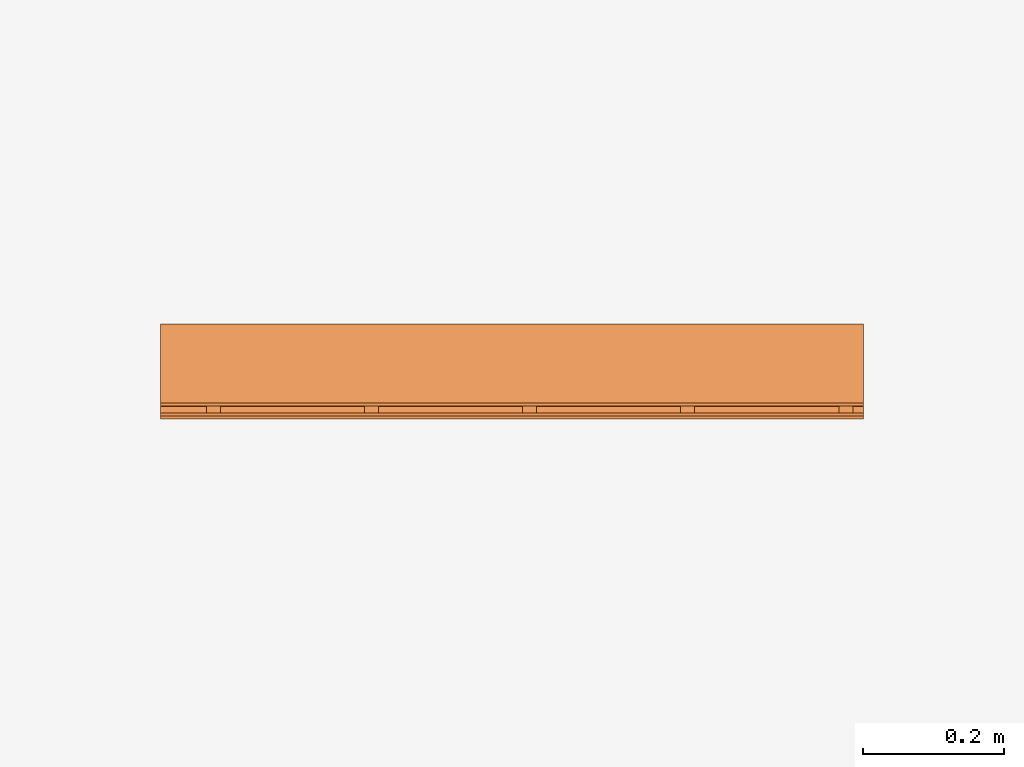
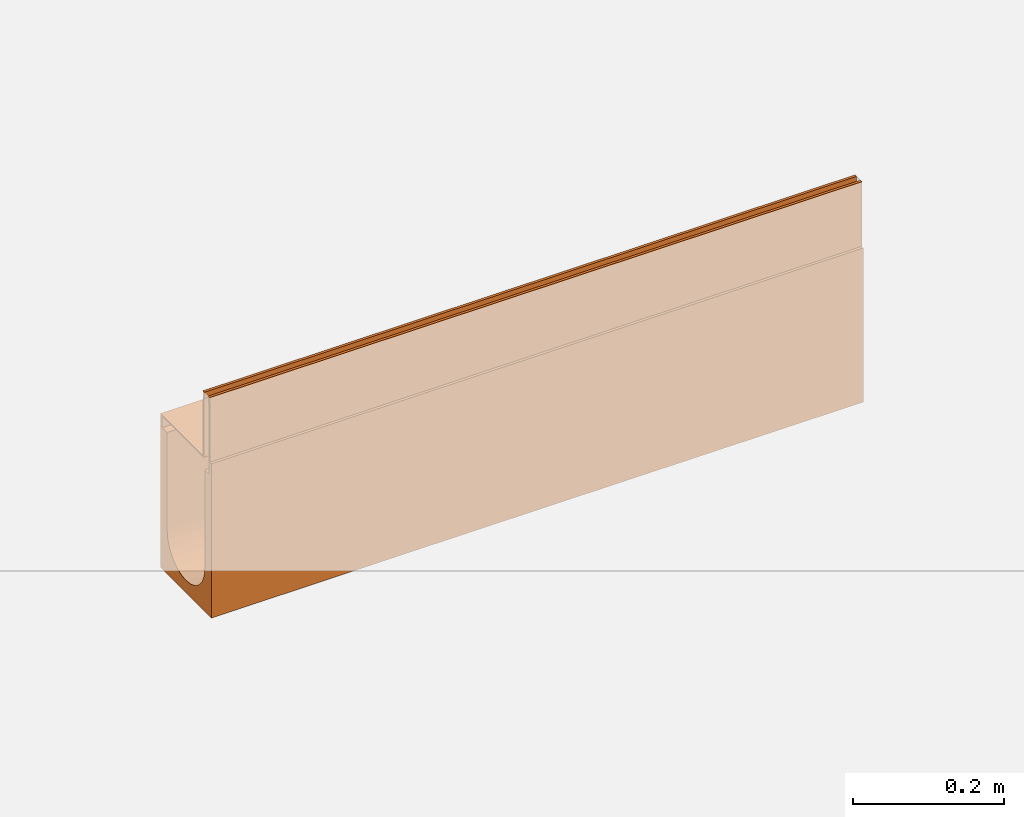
# One storey, part 2 of 2: 1 proxy.
"""IFC2X3 building model written with IfcOpenShell, lengths in millimetres."""

from ifc_helpers import new_model, entity, si_unit, converted_unit, direction, frame, origin, place, context, subcontext, project, spatial, faceted_brep, source, transform, mapped, material, material_list, element, save


model = new_model("IFC2X3")

# Units and contexts
model_context = context("Model", 3, precision=1e-06, world=origin(), true_north=direction((2.0, 6.12303176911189e-17, 1.0)))
context_of_model = context(None, 3, precision=1e-06, world=origin(), true_north=direction((2.0, 6.12303176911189e-17, 1.0)))
body_context = subcontext(model_context, "Body", "Model", "MODEL_VIEW")
ifc_project = project(units=[si_unit("LENGTHUNIT", "METRE", prefix="MILLI"), si_unit("AREAUNIT", "SQUARE_METRE", prefix="MILLI"), si_unit("VOLUMEUNIT", "CUBIC_METRE", prefix="MILLI"), converted_unit("PLANEANGLEUNIT", "DEGREE", entity("IfcRatioMeasure", 0.0174532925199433), si_unit("PLANEANGLEUNIT", "RADIAN"), dimensions=[0, 0, 0, 0, 0, 0, 0]), si_unit("TIMEUNIT", "SECOND")], contexts=[model_context, context_of_model])

# Site, building, storey
site_placement = place(None, origin())
site = spatial("IfcSite", under=ifc_project, at=site_placement, Name="Default", CompositionType="ELEMENT")
building_placement = place(site_placement, origin())
building = spatial("IfcBuilding", under=site, at=building_placement, CompositionType="ELEMENT")
storey_placement = place(building_placement, origin())
storey = spatial("IfcBuildingStorey", under=building, at=storey_placement, Name="Level 1", CompositionType="ELEMENT", Elevation=0.0)

# Proxy
ifc_material_1 = material(Name="Steel, Galvanized")
ifc_material_2 = material(Name="Vienite® Synthetic Resin Concrete")
ifc_material_list = material_list([ifc_material_1, ifc_material_2])
shared_shape = source(origin(), body_context, "Body", "Brep", [
    faceted_brep([(63.249999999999, 15.0, -107.0), (63.249999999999, 17.0, -109.0), (63.249999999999, 33.0, -109.0), (63.249999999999, 35.0, -107.0), (63.249999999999, 17.0, -123.499999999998), (63.249999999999, 15.0, -125.499999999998), (63.249999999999, 33.0, -123.499999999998), (63.249999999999, 35.0, -125.499999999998), (-61.250000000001, 15.0, -125.499999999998), (-61.250000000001, 17.0, -123.499999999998), (-61.250000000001, 33.0, -123.499999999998), (-61.250000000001, 35.0, -125.499999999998), (-61.250000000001, 17.0, -109.0), (-61.250000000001, 15.0, -107.0), (-61.250000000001, 33.0, -109.0), (-61.250000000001, 35.0, -107.0)], [[[0, 1, 2, 3]], [[4, 1, 0, 5]], [[3, 2, 6, 7]], [[6, 4, 5, 7]], [[8, 9, 10, 11]], [[12, 9, 8, 13]], [[11, 10, 14, 15]], [[14, 12, 13, 15]], [[5, 0, 13, 8]], [[7, 5, 8, 11]], [[3, 7, 11, 15]], [[0, 3, 15, 13]], [[1, 4, 9, 12]], [[14, 2, 1, 12]], [[6, 2, 14, 10]], [[9, 4, 6, 10]]]),
    faceted_brep([(-47.2500000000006, 0.0, -10.0), (-47.2500000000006, 0.0, -107.0), (-45.2500000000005, 0.0, -105.0), (-45.2500000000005, 0.0, 0.0), (-49.2500000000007, 0.0, 0.0), (-49.2500000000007, 0.0, -10.0), (63.2499999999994, 0.0, -107.0), (63.2499999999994, 0.0, -105.0), (-45.2500000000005, 1000.0, -105.0), (63.2499999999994, 1000.0, -105.0), (63.2499999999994, 1000.0, -107.0), (-47.2500000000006, 1000.0, -107.0), (-47.2500000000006, 1000.0, -10.0), (-45.2500000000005, 1000.0, 0.0), (-49.2500000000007, 1000.0, -10.0), (-49.2500000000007, 1000.0, 0.0)], [[[0, 1, 2, 3]], [[4, 5, 0, 3]], [[6, 7, 2, 1]], [[8, 9, 10, 11]], [[12, 13, 8, 11]], [[12, 14, 15, 13]], [[0, 5, 14, 12]], [[11, 1, 0, 12]], [[6, 1, 11, 10]], [[9, 7, 6, 10]], [[8, 2, 7, 9]], [[3, 2, 8, 13]], [[15, 4, 3, 13]], [[5, 4, 15, 14]]]),
    faceted_brep([(-59.2500000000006, 1000.0, 0.0), (-59.2500000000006, 1000.0, -10.0), (-61.2500000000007, 1000.0, -10.0), (-63.2500000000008, 1000.0, 0.0), (-63.2500000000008, 1000.0, -125.499999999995), (-61.2500000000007, 1000.0, -125.499999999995), (-61.2500000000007, 0.0, -10.0), (-63.2500000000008, 0.0, 0.0), (-63.2500000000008, 0.0, -125.499999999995), (-61.2500000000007, 0.0, -125.499999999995), (-59.2500000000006, 0.0, 0.0), (-59.2500000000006, 0.0, -10.0)], [[[0, 1, 2, 3]], [[4, 3, 2, 5]], [[6, 7, 8, 9]], [[10, 7, 6, 11]], [[9, 8, 4, 5]], [[6, 9, 5, 2]], [[11, 6, 2, 1]], [[10, 11, 1, 0]], [[3, 7, 10, 0]], [[4, 8, 7, 3]]]),
    faceted_brep([(63.2499999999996, 465.0, -107.0), (63.2499999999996, 467.0, -109.0), (63.2499999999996, 483.0, -109.0), (63.2499999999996, 485.0, -107.0), (63.2499999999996, 467.0, -123.499999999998), (63.2499999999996, 465.0, -125.499999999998), (63.2499999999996, 483.0, -123.499999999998), (63.2499999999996, 485.0, -125.499999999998), (-61.2500000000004, 465.0, -125.499999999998), (-61.2500000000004, 467.0, -123.499999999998), (-61.2500000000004, 483.0, -123.499999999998), (-61.2500000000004, 485.0, -125.499999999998), (-61.2500000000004, 467.0, -109.0), (-61.2500000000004, 465.0, -107.0), (-61.2500000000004, 483.0, -109.0), (-61.2500000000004, 485.0, -107.0)], [[[0, 1, 2, 3]], [[4, 1, 0, 5]], [[3, 2, 6, 7]], [[6, 4, 5, 7]], [[8, 9, 10, 11]], [[12, 9, 8, 13]], [[11, 10, 14, 15]], [[14, 12, 13, 15]], [[5, 0, 13, 8]], [[7, 5, 8, 11]], [[3, 7, 11, 15]], [[0, 3, 15, 13]], [[1, 4, 9, 12]], [[2, 1, 12, 14]], [[6, 2, 14, 10]], [[4, 6, 10, 9]]]),
    faceted_brep([(63.2499999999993, 240.0, -107.0), (63.2499999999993, 242.0, -109.0), (63.2499999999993, 258.0, -109.0), (63.2499999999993, 260.0, -107.0), (63.2499999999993, 242.0, -123.499999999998), (63.2499999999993, 240.0, -125.499999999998), (63.2499999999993, 258.0, -123.499999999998), (63.2499999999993, 260.0, -125.499999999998), (-61.2500000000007, 240.0, -125.499999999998), (-61.2500000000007, 242.0, -123.499999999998), (-61.2500000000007, 258.0, -123.499999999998), (-61.2500000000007, 260.0, -125.499999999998), (-61.2500000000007, 242.0, -109.0), (-61.2500000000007, 240.0, -107.0), (-61.2500000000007, 258.0, -109.0), (-61.2500000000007, 260.0, -107.0)], [[[0, 1, 2, 3]], [[4, 1, 0, 5]], [[3, 2, 6, 7]], [[6, 4, 5, 7]], [[8, 9, 10, 11]], [[12, 9, 8, 13]], [[11, 10, 14, 15]], [[14, 12, 13, 15]], [[5, 0, 13, 8]], [[7, 5, 8, 11]], [[3, 7, 11, 15]], [[0, 3, 15, 13]], [[1, 4, 9, 12]], [[2, 1, 12, 14]], [[6, 2, 14, 10]], [[4, 6, 10, 9]]]),
    faceted_brep([(63.2500000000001, 915.0, -107.0), (63.2500000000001, 917.0, -109.0), (63.2500000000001, 933.0, -109.0), (63.2500000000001, 935.0, -107.0), (63.2500000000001, 917.0, -123.499999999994), (63.2500000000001, 915.0, -125.499999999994), (63.2500000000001, 933.0, -123.499999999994), (63.2500000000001, 935.0, -125.499999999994), (-61.2499999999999, 915.0, -125.499999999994), (-61.2499999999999, 917.0, -123.499999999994), (-61.2499999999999, 933.0, -123.499999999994), (-61.2499999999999, 935.0, -125.499999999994), (-61.2499999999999, 917.0, -109.0), (-61.2499999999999, 915.0, -107.0), (-61.2499999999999, 933.0, -109.0), (-61.2499999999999, 935.0, -107.0)], [[[0, 1, 2, 3]], [[4, 1, 0, 5]], [[3, 2, 6, 7]], [[6, 4, 5, 7]], [[8, 9, 10, 11]], [[12, 9, 8, 13]], [[11, 10, 14, 15]], [[14, 12, 13, 15]], [[5, 0, 13, 8]], [[11, 7, 5, 8]], [[3, 7, 11, 15]], [[13, 0, 3, 15]], [[1, 4, 9, 12]], [[2, 1, 12, 14]], [[6, 2, 14, 10]], [[4, 6, 10, 9]]]),
    faceted_brep([(63.2499999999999, 690.0, -107.0), (63.2499999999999, 692.0, -109.0), (63.2499999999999, 708.0, -109.0), (63.2499999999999, 710.0, -107.0), (63.2499999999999, 692.0, -123.499999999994), (63.2499999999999, 690.0, -125.499999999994), (63.2499999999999, 708.0, -123.499999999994), (63.2499999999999, 710.0, -125.499999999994), (-61.2500000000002, 690.0, -125.499999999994), (-61.2500000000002, 692.0, -123.499999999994), (-61.2500000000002, 708.0, -123.499999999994), (-61.2500000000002, 710.0, -125.499999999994), (-61.2500000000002, 692.0, -109.0), (-61.2500000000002, 690.0, -107.0), (-61.2500000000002, 708.0, -109.0), (-61.2500000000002, 710.0, -107.0)], [[[0, 1, 2, 3]], [[4, 1, 0, 5]], [[3, 2, 6, 7]], [[6, 4, 5, 7]], [[8, 9, 10, 11]], [[12, 9, 8, 13]], [[11, 10, 14, 15]], [[14, 12, 13, 15]], [[5, 0, 13, 8]], [[11, 7, 5, 8]], [[3, 7, 11, 15]], [[13, 0, 3, 15]], [[1, 4, 9, 12]], [[2, 1, 12, 14]], [[6, 2, 14, 10]], [[4, 6, 10, 9]]]),
    faceted_brep([(63.2499999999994, 1000.0, -125.500000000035), (63.2499999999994, 1000.0, -105.0), (67.5000000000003, 1000.0, -105.0), (67.5000000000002, 1000.0, -355.0), (50.0, 1000.0, -285.0), (50.0, 1000.0, -125.500000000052), (-67.4999999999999, 1000.0, -105.0), (-63.2499999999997, 1000.0, -105.0), (-63.2500000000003, 1000.0, -125.500000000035), (-67.4999999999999, 1000.0, -355.0), (-50.0, 1000.0, -125.500000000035), (-50.0, 1000.0, -285.0), (48.2962913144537, 1000.0, -297.940952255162), (35.3553390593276, 1000.0, -320.355339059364), (43.3012701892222, 1000.0, -310.0), (25.0, 1000.0, -328.301270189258), (0.0, 1000.0, -335.0), (12.9409522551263, 1000.0, -333.29629131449), (-43.3012701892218, 1000.0, -310.0), (-35.3553390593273, 1000.0, -320.355339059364), (-48.2962913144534, 1000.0, -297.940952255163), (-25.0, 1000.0, -328.301270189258), (-12.9409522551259, 1000.0, -333.29629131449), (67.5000000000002, 0.0, -355.0), (12.9409522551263, 0.0, -333.29629131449), (0.0, 0.0, -335.0), (25.0, 0.0, -328.301270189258), (35.3553390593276, 0.0, -320.355339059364), (43.3012701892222, 0.0, -310.0), (48.2962913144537, 0.0, -297.940952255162), (-12.9409522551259, 0.0, -333.29629131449), (-67.4999999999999, 0.0, -355.0), (-25.0, 0.0, -328.301270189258), (-35.3553390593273, 0.0, -320.355339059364), (-43.3012701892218, 0.0, -310.0), (-48.2962913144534, 0.0, -297.940952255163), (50.0, 0.0, -285.0), (63.2499999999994, 0.0, -125.500000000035), (50.0, 0.0, -125.500000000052), (67.5000000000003, 0.0, -105.0), (63.2499999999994, 0.0, -105.0), (-50.0, 0.0, -285.0), (-50.0, 0.0, -125.500000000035), (-63.2500000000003, 0.0, -125.500000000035), (-63.2499999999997, 0.0, -105.0), (-67.4999999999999, 0.0, -105.0), (-14.2350474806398, 46.8740795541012, -355.0), (0.0, 45.0, -355.0), (-27.5000000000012, 52.3686027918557, -355.0), (-53.1259204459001, 85.764952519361, -355.0), (-47.6313972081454, 72.4999999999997, -355.0), (-38.8908729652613, 61.1091270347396, -355.0), (-55.0, 100.0, -355.0), (14.2350474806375, 46.8740795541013, -355.0), (27.4999999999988, 52.368602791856, -355.0), (38.8908729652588, 61.1091270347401, -355.0), (47.6313972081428, 72.5000000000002, -355.0), (53.1259204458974, 85.7649525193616, -355.0), (55.0, 100.0, -355.0), (-53.1259204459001, 114.235047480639, -355.0), (-47.6313972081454, 127.5, -355.0), (-38.8908729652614, 138.89087296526, -355.0), (-27.5000000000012, 147.631397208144, -355.0), (-14.2350474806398, 153.125920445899, -355.0), (0.0, 155.0, -355.0), (47.6313972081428, 127.5, -355.0), (38.8908729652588, 138.89087296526, -355.0), (53.1259204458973, 114.235047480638, -355.0), (14.2350474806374, 153.125920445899, -355.0), (27.4999999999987, 147.631397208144, -355.0), (50.0, 500.0, -285.0), (39.6676669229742, 358.503173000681, -315.438071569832), (46.1939765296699, 499.999994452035, -304.134171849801), (49.0392639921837, 322.335444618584, -294.754516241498), (30.4380713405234, 499.999998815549, -324.667667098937), (19.1341715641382, 292.558308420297, -331.193976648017), (6.52630960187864, 500.0, -334.572243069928), (19.1341716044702, 641.496826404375, -331.193976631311), (49.0392639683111, 640.187466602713, -294.754516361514), (-19.1341716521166, 500.0, -331.193976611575), (39.667666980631, 707.441691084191, -315.438071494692), (-46.1939766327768, 500.0, -304.134171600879), (-49.0392640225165, 677.66454995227, -294.754516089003), (-30.4380714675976, 358.503175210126, -324.66766700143), (-6.52630964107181, 292.558307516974, -334.572243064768), (-6.52630961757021, 641.49682443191, -334.572243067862), (-39.6676670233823, 292.558307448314, -315.438071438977), (-39.6676670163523, 641.496824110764, -315.438071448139), (-30.4380714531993, 707.441692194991, -324.667667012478), (-49.0392640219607, 359.81252578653, -294.754516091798), (-50.0, 499.997658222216, -285.0), (-27.5000000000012, 147.631397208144, -345.0), (-14.2350474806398, 153.125920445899, -345.0), (0.0, 155.0, -345.0), (14.2350474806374, 153.125920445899, -345.0), (-38.8908729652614, 138.89087296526, -345.0), (-47.6313972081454, 127.5, -345.0), (-55.0, 100.0, -345.0), (-53.1259204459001, 114.235047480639, -345.0), (47.6313972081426, 72.4999999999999, -345.0), (27.4999999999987, 147.631397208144, -345.0), (53.1259204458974, 114.235047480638, -345.0), (55.0, 100.0, -345.0), (47.6313972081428, 127.5, -345.0), (38.8908729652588, 138.89087296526, -345.0), (-47.6313972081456, 72.5, -345.0), (-27.5000000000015, 52.3686027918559, -345.0), (-38.8908729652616, 61.1091270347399, -345.0), (0.0, 45.0, -345.0), (-14.2350474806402, 46.8740795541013, -345.0), (38.8908729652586, 61.1091270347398, -345.0), (53.1259204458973, 85.7649525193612, -345.0), (27.4999999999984, 52.3686027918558, -345.0), (14.2350474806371, 46.8740795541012, -345.0), (-53.1259204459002, 85.7649525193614, -345.0)], [[[0, 1, 2, 3]], [[4, 5, 0, 3]], [[6, 7, 8, 9]], [[8, 10, 11, 9]], [[4, 3, 12]], [[13, 14, 3]], [[15, 13, 3]], [[16, 17, 3, 9]], [[3, 17, 15]], [[14, 12, 3]], [[18, 19, 9]], [[20, 18, 9]], [[21, 22, 9]], [[9, 22, 16]], [[21, 9, 19]], [[20, 9, 11]], [[23, 24, 25]], [[24, 23, 26]], [[27, 26, 23]], [[28, 27, 23]], [[23, 29, 28]], [[25, 30, 31, 23]], [[31, 30, 32]], [[33, 34, 31]], [[32, 33, 31]], [[31, 34, 35]], [[36, 29, 23]], [[37, 38, 36, 23]], [[39, 40, 37, 23]], [[41, 42, 43, 31]], [[35, 41, 31]], [[43, 44, 45, 31]], [[7, 44, 43, 8]], [[6, 45, 44, 7]], [[31, 45, 6, 9]], [[31, 46, 47, 23]], [[46, 31, 48]], [[49, 50, 31]], [[51, 48, 31]], [[50, 51, 31]], [[31, 52, 49]], [[23, 53, 54]], [[53, 23, 47]], [[23, 54, 55]], [[55, 56, 23]], [[57, 58, 23]], [[56, 57, 23]], [[23, 58, 3]], [[9, 59, 52, 31]], [[60, 59, 9]], [[61, 9, 62]], [[9, 61, 60]], [[63, 62, 9]], [[64, 63, 9, 3]], [[65, 66, 3]], [[67, 65, 3]], [[68, 64, 3]], [[69, 3, 66]], [[3, 69, 68]], [[67, 3, 58]], [[2, 39, 23, 3]], [[1, 40, 39, 2]], [[37, 40, 1, 0]], [[5, 38, 37, 0]], [[4, 70, 38, 5]], [[71, 27, 28]], [[14, 72, 12]], [[28, 29, 72]], [[72, 29, 73]], [[26, 27, 74]], [[15, 74, 13]], [[24, 75, 76]], [[72, 71, 28]], [[77, 75, 74]], [[24, 26, 75]], [[75, 77, 76]], [[70, 4, 78, 73]], [[73, 29, 36]], [[24, 76, 25]], [[21, 79, 22]], [[80, 71, 72]], [[20, 81, 18]], [[14, 13, 80]], [[15, 77, 74]], [[20, 11, 82]], [[17, 16, 76]], [[83, 33, 32]], [[84, 85, 79]], [[15, 17, 77]], [[32, 30, 79]], [[86, 33, 83]], [[19, 87, 88]], [[83, 32, 79]], [[35, 34, 81]], [[19, 88, 21]], [[86, 34, 33]], [[87, 81, 86]], [[89, 82, 90, 41]], [[30, 25, 84]], [[22, 85, 16]], [[13, 74, 80]], [[85, 76, 16]], [[26, 74, 75]], [[88, 83, 79]], [[25, 76, 84]], [[18, 81, 87]], [[87, 19, 18]], [[77, 17, 76]], [[20, 82, 81]], [[85, 22, 79]], [[14, 80, 72]], [[71, 80, 74]], [[71, 74, 27]], [[30, 84, 79]], [[85, 84, 76]], [[21, 88, 79]], [[83, 88, 87, 86]], [[34, 86, 81]], [[72, 73, 78]], [[70, 73, 36]], [[78, 12, 72]], [[12, 78, 4]], [[81, 82, 89]], [[90, 82, 11]], [[89, 35, 81]], [[35, 89, 41]], [[42, 41, 90, 11]], [[11, 10, 42]], [[43, 42, 10, 8]], [[91, 92, 93, 94]], [[95, 91, 94, 96]], [[97, 98, 96, 99]], [[99, 96, 94, 100]], [[101, 102, 100, 103]], [[104, 103, 100]], [[105, 97, 99, 106]], [[107, 105, 106]], [[108, 109, 106, 110]], [[102, 111, 99, 100]], [[108, 110, 112, 113]], [[106, 99, 110]], [[114, 97, 105]], [[101, 67, 58, 102]], [[103, 65, 67, 101]], [[100, 69, 66, 104]], [[104, 66, 65, 103]], [[94, 68, 69, 100]], [[68, 94, 93, 64]], [[92, 63, 64, 93]], [[91, 62, 63, 92]], [[96, 60, 61, 95]], [[95, 61, 62, 91]], [[98, 59, 60, 96]], [[59, 98, 97, 52]], [[114, 49, 52, 97]], [[105, 50, 49, 114]], [[106, 48, 51, 107]], [[107, 51, 50, 105]], [[109, 46, 48, 106]], [[46, 109, 108, 47]], [[113, 53, 47, 108]], [[112, 54, 53, 113]], [[99, 56, 55, 110]], [[110, 55, 54, 112]], [[111, 57, 56, 99]], [[57, 111, 102, 58]], [[38, 70, 36]]]),
])
proxy_placement = place(storey_placement, frame((143.656586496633, 99.9218925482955, 0.0), z_axis=(0.0, 0.0, 1.0), x_axis=(0.0, 1.0, 0.0)))
element("IfcBuildingElementProxy", 1, at=proxy_placement, inside=storey, material=ifc_material_list, Name="Civil-Drainage-Channel-ACO-MultiDrain-M100D-Brickslot-Channel-System:23200 - No 20.0 Constant Depth Channel - 1000mm LG - Invert Depth 230mm:23200 - No 20.0 Constant Depth Channel - 1000mm LG - Invert Depth 230mm", ObjectType="23200 - No 20.0 Constant Depth Channel - 1000mm LG - Invert Depth 230mm", CompositionType="ELEMENT", context=body_context, shape_type="MappedRepresentation", body=[
    mapped(shared_shape, transform((0.0, 0.0, 0.0), scale=1.0)),
])

save(model, "model.ifc")
